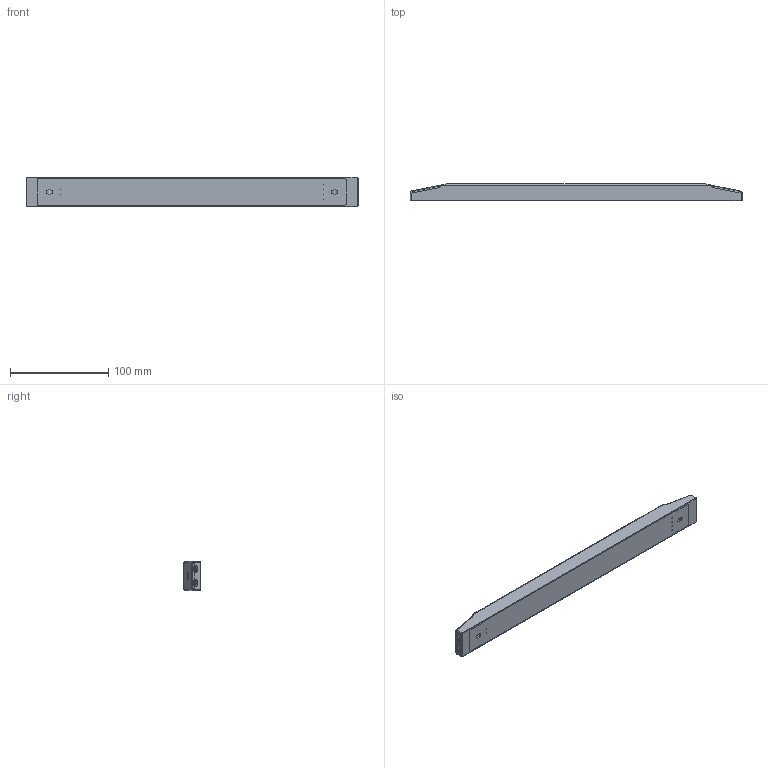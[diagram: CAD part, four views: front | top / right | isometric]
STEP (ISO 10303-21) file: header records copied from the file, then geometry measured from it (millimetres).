
FILE_DESCRIPTION((''),'2;1');
FILE_NAME('3D-60W_ASM','2020-04-29T',('Arbiter.he'),(''),'PRO/ENGINEER BY PARAMETRIC TECHNOLOGY CORPORATION, 2010280','PRO/ENGINEER BY PARAMETRIC TECHNOLOGY CORPORATION, 2010280','');
FILE_SCHEMA(('CONFIG_CONTROL_DESIGN'));
Length unit declared in the file: millimetre
Products named in the file (8): TOP-60W; DOWN-60W; CM-100-2P; PRT0052; PRT0053; 4P_ASM; COVER; 3D-60W_ASM
Assembly tree (8 placements, depth 3):
  3D-60W_ASM
    TOP-60W
    DOWN-60W
    CM-100-2P
    4P_ASM
      PRT0052
      PRT0053
    COVER  x2
Bounding box: 338.04 x 17.85 x 30 mm (x, y, z)
Volume: 50206.8 mm3; surface area: 76484 mm2
Topology: 7 solids, 7 shells, 1228 faces, 3310 edges, 2125 vertices
Faces by surface type: plane 754, cylinder 386, torus 36, bspline 28, cone 20, sphere 4
Entity records: 35782 total; most frequent: CARTESIAN_POINT 8479, ORIENTED_EDGE 5764, DIRECTION 5528, EDGE_CURVE 2882, VECTOR 2128, LINE 2128, VERTEX_POINT 1847, AXIS2_PLACEMENT_3D 1700
